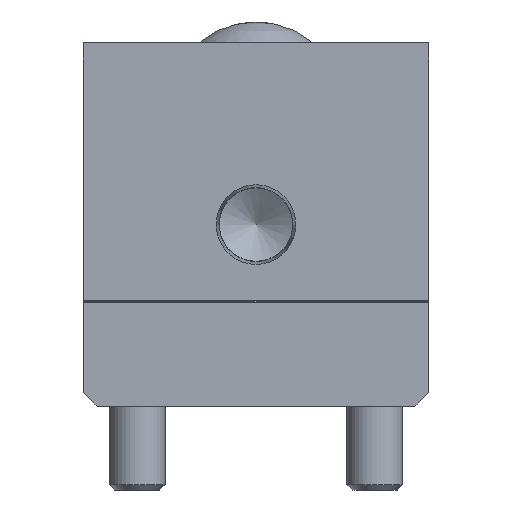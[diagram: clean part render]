
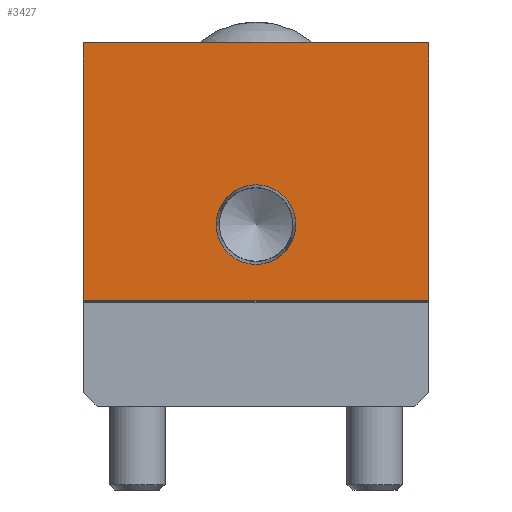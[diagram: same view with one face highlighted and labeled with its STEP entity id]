
A CAD part, front view. The second image highlights one B-rep face of the part: STEP entity #3427.
In plain terms, the highlighted planar face has unit normal (0, -1, 0).
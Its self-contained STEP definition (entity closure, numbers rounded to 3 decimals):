
#205=FACE_BOUND('',#730,.T.);
#297=CIRCLE('',#3649,5.704);
#479=FACE_OUTER_BOUND('',#729,.T.);
#729=EDGE_LOOP('',(#2460,#2461,#2462,#2463));
#730=EDGE_LOOP('',(#2464));
#1053=LINE('',#5088,#1321);
#1056=LINE('',#5093,#1324);
#1058=LINE('',#5101,#1326);
#1072=LINE('',#5137,#1340);
#1321=VECTOR('',#4110,36.9);
#1324=VECTOR('',#4115,49.5);
#1326=VECTOR('',#4123,36.9);
#1340=VECTOR('',#4167,49.5);
#1572=VERTEX_POINT('',#5085);
#1573=VERTEX_POINT('',#5087);
#1574=VERTEX_POINT('',#5091);
#1577=VERTEX_POINT('',#5099);
#1581=VERTEX_POINT('',#5113);
#1893=EDGE_CURVE('',#1573,#1572,#1053,.T.);
#1896=EDGE_CURVE('',#1572,#1574,#1056,.T.);
#1900=EDGE_CURVE('',#1577,#1574,#1058,.T.);
#1905=EDGE_CURVE('',#1581,#1581,#297,.T.);
#1918=EDGE_CURVE('',#1577,#1573,#1072,.T.);
#2460=ORIENTED_EDGE('',*,*,#1918,.T.);
#2461=ORIENTED_EDGE('',*,*,#1893,.T.);
#2462=ORIENTED_EDGE('',*,*,#1896,.T.);
#2463=ORIENTED_EDGE('',*,*,#1900,.F.);
#2464=ORIENTED_EDGE('',*,*,#1905,.T.);
#3097=PLANE('',#3682);
#3427=ADVANCED_FACE('',(#479,#205),#3097,.T.);
#3649=AXIS2_PLACEMENT_3D('',#5114,#4138,#4139);
#3682=AXIS2_PLACEMENT_3D('',#5175,#4221,#4222);
#4110=DIRECTION('',(0.,0.,1.));
#4115=DIRECTION('',(-1.,0.,0.));
#4123=DIRECTION('',(0.,0.,1.));
#4138=DIRECTION('center_axis',(0.,1.,0.));
#4139=DIRECTION('ref_axis',(1.,0.,0.));
#4167=DIRECTION('',(1.,0.,0.));
#4221=DIRECTION('center_axis',(0.,-1.,0.));
#4222=DIRECTION('ref_axis',(0.,0.,-1.));
#5085=CARTESIAN_POINT('',(24.75,0.,52.));
#5087=CARTESIAN_POINT('',(24.75,0.,15.1));
#5088=CARTESIAN_POINT('',(24.75,0.,0.));
#5091=CARTESIAN_POINT('',(-24.75,0.,52.));
#5093=CARTESIAN_POINT('',(24.75,0.,52.));
#5099=CARTESIAN_POINT('',(-24.75,0.,15.1));
#5101=CARTESIAN_POINT('',(-24.75,0.,0.));
#5113=CARTESIAN_POINT('',(5.704,0.,26.));
#5114=CARTESIAN_POINT('Origin',(0.,0.,26.));
#5137=CARTESIAN_POINT('',(24.75,0.,15.1));
#5175=CARTESIAN_POINT('Origin',(24.75,0.,0.));
